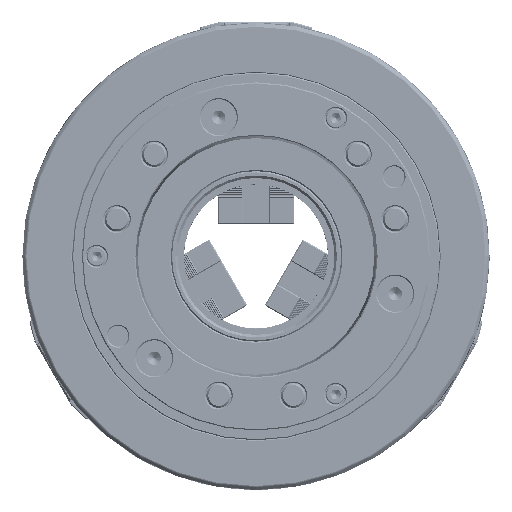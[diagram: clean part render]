
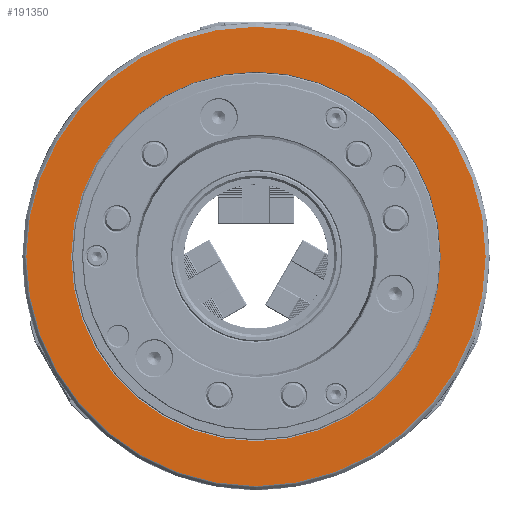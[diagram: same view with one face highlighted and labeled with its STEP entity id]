
A CAD part, front view. The second image highlights one B-rep face of the part: STEP entity #191350.
In plain terms, the highlighted planar face has unit normal (0, -1, 0).
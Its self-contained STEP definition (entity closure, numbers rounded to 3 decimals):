
#50793=FACE_BOUND('',#66377,.T.);
#56722=FACE_OUTER_BOUND('',#66376,.T.);
#66376=EDGE_LOOP('',(#142884));
#66377=EDGE_LOOP('',(#142885));
#73702=CIRCLE('',#202526,187.294);
#73704=CIRCLE('',#202529,150.721);
#80871=VERTEX_POINT('',#285648);
#80873=VERTEX_POINT('',#285653);
#103069=EDGE_CURVE('',#80871,#80871,#73702,.T.);
#103071=EDGE_CURVE('',#80873,#80873,#73704,.T.);
#142884=ORIENTED_EDGE('',*,*,#103069,.T.);
#142885=ORIENTED_EDGE('',*,*,#103071,.T.);
#184069=PLANE('',#203208);
#191350=ADVANCED_FACE('',(#56722,#50793),#184069,.T.);
#202526=AXIS2_PLACEMENT_3D('',#285649,#229381,#229382);
#202529=AXIS2_PLACEMENT_3D('',#285654,#229387,#229388);
#203208=AXIS2_PLACEMENT_3D('',#289129,#231211,#231212);
#229381=DIRECTION('center_axis',(0.,-1.,0.));
#229382=DIRECTION('ref_axis',(-0.581,0.,
-0.814));
#229387=DIRECTION('center_axis',(0.,1.,0.));
#229388=DIRECTION('ref_axis',(-0.581,0.,
0.814));
#231211=DIRECTION('center_axis',(0.,-1.,0.));
#231212=DIRECTION('ref_axis',(0.,0.,-1.));
#285648=CARTESIAN_POINT('',(0.,0.,-187.294));
#285649=CARTESIAN_POINT('Origin',(0.,0.,
0.));
#285653=CARTESIAN_POINT('',(0.,0.,150.721));
#285654=CARTESIAN_POINT('Origin',(0.,0.,
0.));
#289129=CARTESIAN_POINT('Origin',(-187.304,0.,
0.));
